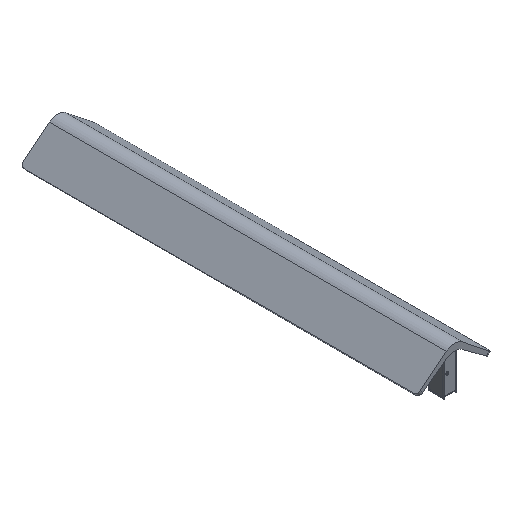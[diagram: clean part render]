
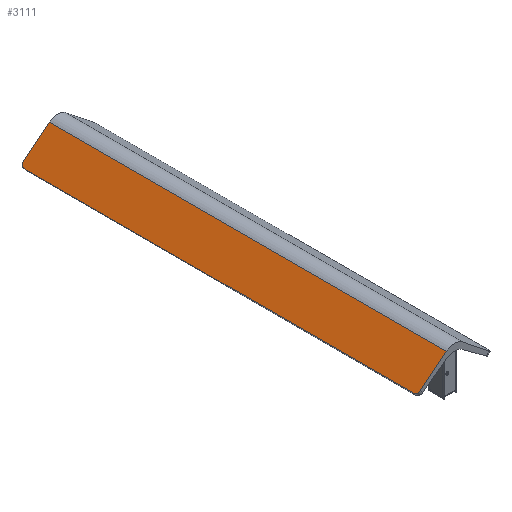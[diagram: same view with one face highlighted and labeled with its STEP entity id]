
A CAD part, isometric view. The second image highlights one B-rep face of the part: STEP entity #3111.
In plain terms, the highlighted planar face has unit normal (-0.623, 0, 0.782).
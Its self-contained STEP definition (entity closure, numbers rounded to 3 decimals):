
#135=PLANE('',#3410);
#282=FACE_OUTER_BOUND('',#444,.T.);
#444=EDGE_LOOP('',(#2736,#2737,#2738,#2739,#2740,#2741));
#589=CIRCLE('',#3392,15.);
#592=CIRCLE('',#3403,15.);
#871=LINE('',#5213,#1164);
#883=LINE('',#5250,#1176);
#886=LINE('',#5256,#1179);
#887=LINE('',#5257,#1180);
#1164=VECTOR('',#4202,10.);
#1176=VECTOR('',#4238,10.);
#1179=VECTOR('',#4247,10.);
#1180=VECTOR('',#4248,10.);
#1443=VERTEX_POINT('',#5199);
#1444=VERTEX_POINT('',#5201);
#1447=VERTEX_POINT('',#5212);
#1457=VERTEX_POINT('',#5239);
#1459=VERTEX_POINT('',#5247);
#1460=VERTEX_POINT('',#5249);
#1865=EDGE_CURVE('',#1443,#1444,#589,.T.);
#1871=EDGE_CURVE('',#1447,#1444,#871,.T.);
#1884=EDGE_CURVE('',#1447,#1457,#592,.T.);
#1889=EDGE_CURVE('',#1459,#1460,#883,.T.);
#1893=EDGE_CURVE('',#1460,#1443,#886,.T.);
#1894=EDGE_CURVE('',#1459,#1457,#887,.T.);
#2736=ORIENTED_EDGE('',*,*,#1865,.F.);
#2737=ORIENTED_EDGE('',*,*,#1893,.F.);
#2738=ORIENTED_EDGE('',*,*,#1889,.F.);
#2739=ORIENTED_EDGE('',*,*,#1894,.T.);
#2740=ORIENTED_EDGE('',*,*,#1884,.F.);
#2741=ORIENTED_EDGE('',*,*,#1871,.T.);
#3111=ADVANCED_FACE('',(#282),#135,.T.);
#3392=AXIS2_PLACEMENT_3D('',#5202,#4190,#4191);
#3403=AXIS2_PLACEMENT_3D('',#5240,#4226,#4227);
#3410=AXIS2_PLACEMENT_3D('',#5255,#4245,#4246);
#4190=DIRECTION('center_axis',(0.623,0.,-0.782));
#4191=DIRECTION('ref_axis',(-0.553,-0.707,-0.441));
#4202=DIRECTION('',(0.,-1.,0.));
#4226=DIRECTION('center_axis',(0.623,0.,-0.782));
#4227=DIRECTION('ref_axis',(-0.553,0.707,-0.441));
#4238=DIRECTION('',(0.,-1.,0.));
#4245=DIRECTION('center_axis',(-0.623,0.,
0.782));
#4246=DIRECTION('ref_axis',(-0.782,0.,-0.623));
#4247=DIRECTION('',(-0.782,0.,-0.623));
#4248=DIRECTION('',(-0.782,0.,-0.623));
#5199=CARTESIAN_POINT('',(-128.282,-1500.,256.079));
#5201=CARTESIAN_POINT('',(-140.011,-1485.,246.73));
#5202=CARTESIAN_POINT('Origin',(-128.282,-1485.,256.079));
#5212=CARTESIAN_POINT('',(-140.011,-15.,246.73));
#5213=CARTESIAN_POINT('',(-140.011,0.,246.73));
#5239=CARTESIAN_POINT('',(-128.282,0.,256.079));
#5240=CARTESIAN_POINT('Origin',(-128.282,-15.,256.079));
#5247=CARTESIAN_POINT('',(-29.507,0.,334.81));
#5249=CARTESIAN_POINT('',(-29.507,-1500.,334.81));
#5250=CARTESIAN_POINT('',(-29.507,0.,334.81));
#5255=CARTESIAN_POINT('Origin',(-29.507,0.,
334.81));
#5256=CARTESIAN_POINT('',(-29.507,-1500.,334.81));
#5257=CARTESIAN_POINT('',(-29.507,0.,334.81));
